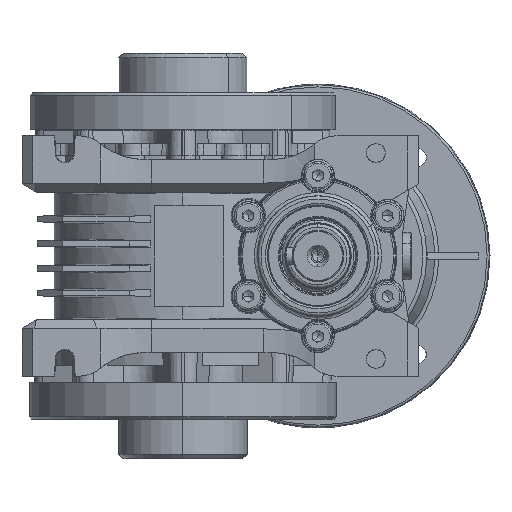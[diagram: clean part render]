
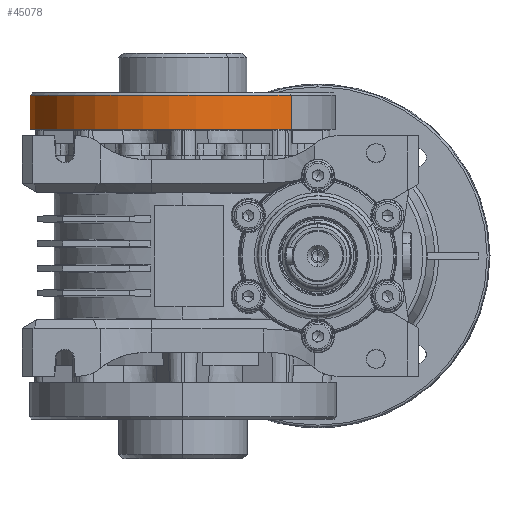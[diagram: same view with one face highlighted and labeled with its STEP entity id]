
A CAD part, left-side view. The second image highlights one B-rep face of the part: STEP entity #45078.
In plain terms, the highlighted cylindrical face has radius 71.5 mm (diameter 143 mm), a partial arc.
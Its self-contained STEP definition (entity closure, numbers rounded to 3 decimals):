
#2084 = CIRCLE ( 'NONE', #37340, 71.5 ) ;
#11578 = CARTESIAN_POINT ( 'NONE',  ( -50.558, -50.558, 75. ) ) ;
#13074 = AXIS2_PLACEMENT_3D ( 'NONE', #41982, #61479, #91993 ) ;
#24150 = EDGE_LOOP ( 'NONE', ( #47881, #106926, #78558, #45889 ) ) ;
#24517 = EDGE_CURVE ( 'NONE', #81677, #110793, #2084, .T. ) ;
#30010 = EDGE_CURVE ( 'NONE', #37562, #46114, #35908, .T. ) ;
#30439 = CARTESIAN_POINT ( 'NONE',  ( 0., 0., 59. ) ) ;
#30615 = DIRECTION ( 'NONE',  ( 0., 0., -1. ) ) ;
#32230 = CARTESIAN_POINT ( 'NONE',  ( 50.558, 50.558, 75. ) ) ;
#35432 = CARTESIAN_POINT ( 'NONE',  ( 50.558, 50.558, 59. ) ) ;
#35908 = CIRCLE ( 'NONE', #13074, 71.5 ) ;
#37340 = AXIS2_PLACEMENT_3D ( 'NONE', #58589, #30615, #87851 ) ;
#37562 = VERTEX_POINT ( 'NONE', #45452 ) ;
#41982 = CARTESIAN_POINT ( 'NONE',  ( 0., 0., 59. ) ) ;
#43301 = DIRECTION ( 'NONE',  ( 0., 0., -1. ) ) ;
#45078 = ADVANCED_FACE ( 'NONE', ( #60342 ), #118837, .T. ) ;
#45452 = CARTESIAN_POINT ( 'NONE',  ( -50.558, -50.558, 59. ) ) ;
#45889 = ORIENTED_EDGE ( 'NONE', *, *, #70365, .F. ) ;
#46114 = VERTEX_POINT ( 'NONE', #118282 ) ;
#47881 = ORIENTED_EDGE ( 'NONE', *, *, #24517, .T. ) ;
#58589 = CARTESIAN_POINT ( 'NONE',  ( 0., 0., 75. ) ) ;
#60342 = FACE_OUTER_BOUND ( 'NONE', #24150, .T. ) ;
#61479 = DIRECTION ( 'NONE',  ( 0., 0., -1. ) ) ;
#62096 = EDGE_CURVE ( 'NONE', #110793, #46114, #114725, .T. ) ;
#65854 = DIRECTION ( 'NONE',  ( 0., 0., -1. ) ) ;
#69831 = VECTOR ( 'NONE', #43301, 1000. ) ;
#70365 = EDGE_CURVE ( 'NONE', #81677, #37562, #116528, .T. ) ;
#72021 = DIRECTION ( 'NONE',  ( -0.707, -0.707, 0. ) ) ;
#78558 = ORIENTED_EDGE ( 'NONE', *, *, #30010, .F. ) ;
#81677 = VERTEX_POINT ( 'NONE', #11578 ) ;
#84092 = CARTESIAN_POINT ( 'NONE',  ( -50.558, -50.558, 59. ) ) ;
#87851 = DIRECTION ( 'NONE',  ( -0.707, -0.707, 0. ) ) ;
#91993 = DIRECTION ( 'NONE',  ( -0.707, -0.707, 0. ) ) ;
#98077 = VECTOR ( 'NONE', #65854, 1000. ) ;
#102490 = AXIS2_PLACEMENT_3D ( 'NONE', #30439, #111021, #72021 ) ;
#106926 = ORIENTED_EDGE ( 'NONE', *, *, #62096, .T. ) ;
#110793 = VERTEX_POINT ( 'NONE', #32230 ) ;
#111021 = DIRECTION ( 'NONE',  ( 0., 0., -1. ) ) ;
#114725 = LINE ( 'NONE', #35432, #69831 ) ;
#116528 = LINE ( 'NONE', #84092, #98077 ) ;
#118282 = CARTESIAN_POINT ( 'NONE',  ( 50.558, 50.558, 59. ) ) ;
#118837 = CYLINDRICAL_SURFACE ( 'NONE', #102490, 71.5 ) ;
